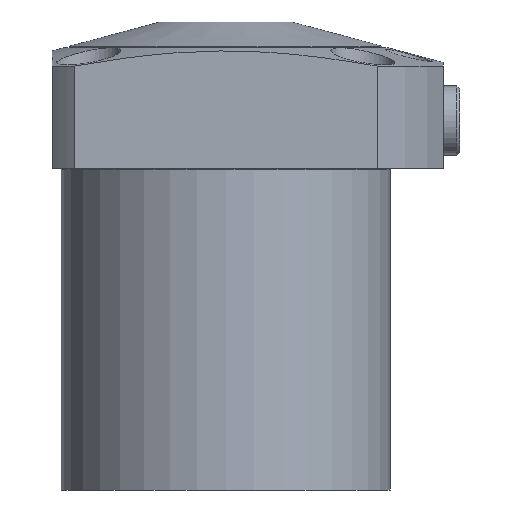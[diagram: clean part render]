
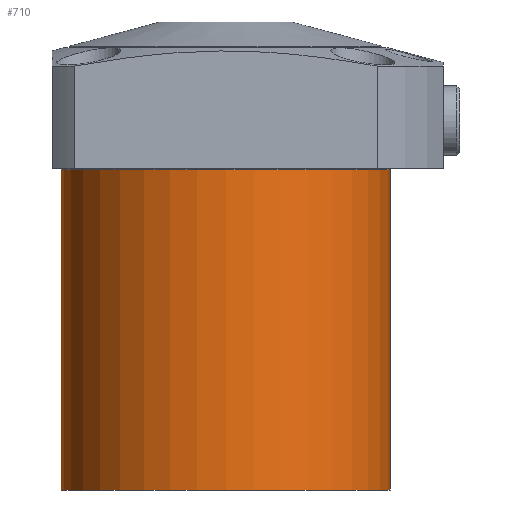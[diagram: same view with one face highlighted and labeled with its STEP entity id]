
A CAD part, front view. The second image highlights one B-rep face of the part: STEP entity #710.
In plain terms, the highlighted cylindrical face has radius 45 mm (diameter 90 mm), a partial arc.
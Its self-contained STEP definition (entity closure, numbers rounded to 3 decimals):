
#478=CYLINDRICAL_SURFACE('',#2676,45.);
#710=ADVANCED_FACE('',(#861),#478,.T.);
#861=FACE_OUTER_BOUND('',#999,.T.);
#999=EDGE_LOOP('',(#1721,#1722,#1723,#1724));
#1131=LINE('',#3806,#1261);
#1132=LINE('',#3808,#1262);
#1261=VECTOR('',#3008,1.);
#1262=VECTOR('',#3011,1.);
#1721=ORIENTED_EDGE('',*,*,#2188,.F.);
#1722=ORIENTED_EDGE('',*,*,#2305,.T.);
#1723=ORIENTED_EDGE('',*,*,#2190,.T.);
#1724=ORIENTED_EDGE('',*,*,#2183,.T.);
#1981=VERTEX_POINT('',#3795);
#1982=VERTEX_POINT('',#3796);
#1985=VERTEX_POINT('',#3804);
#1986=VERTEX_POINT('',#3805);
#2183=EDGE_CURVE('',#1981,#1982,#2378,.T.);
#2188=EDGE_CURVE('',#1986,#1982,#1131,.T.);
#2190=EDGE_CURVE('',#1985,#1981,#1132,.T.);
#2305=EDGE_CURVE('',#1986,#1985,#2445,.T.);
#2378=CIRCLE('',#2559,45.);
#2445=CIRCLE('',#2674,45.);
#2559=AXIS2_PLACEMENT_3D('',#3794,#2996,#2997);
#2674=AXIS2_PLACEMENT_3D('',#4163,#3268,#3269);
#2676=AXIS2_PLACEMENT_3D('',#4165,#3272,#3273);
#2996=DIRECTION('',(0.,0.,-1.));
#2997=DIRECTION('',(-1.,0.,0.));
#3008=DIRECTION('',(0.,0.,1.));
#3011=DIRECTION('',(0.,0.,1.));
#3268=DIRECTION('',(0.,0.,1.));
#3269=DIRECTION('',(1.,0.,0.));
#3272=DIRECTION('',(0.,0.,1.));
#3273=DIRECTION('',(-1.,0.,0.));
#3794=CARTESIAN_POINT('',(0.,0.,-0.4));
#3795=CARTESIAN_POINT('',(45.,0.,-0.4));
#3796=CARTESIAN_POINT('',(-45.,0.,-0.4));
#3804=CARTESIAN_POINT('',(45.,0.,-88.));
#3805=CARTESIAN_POINT('',(-45.,0.,-88.));
#3806=CARTESIAN_POINT('',(-45.,0.,100.));
#3808=CARTESIAN_POINT('',(45.,0.,100.));
#4163=CARTESIAN_POINT('',(0.,0.,-88.));
#4165=CARTESIAN_POINT('',(0.,0.,100.));
